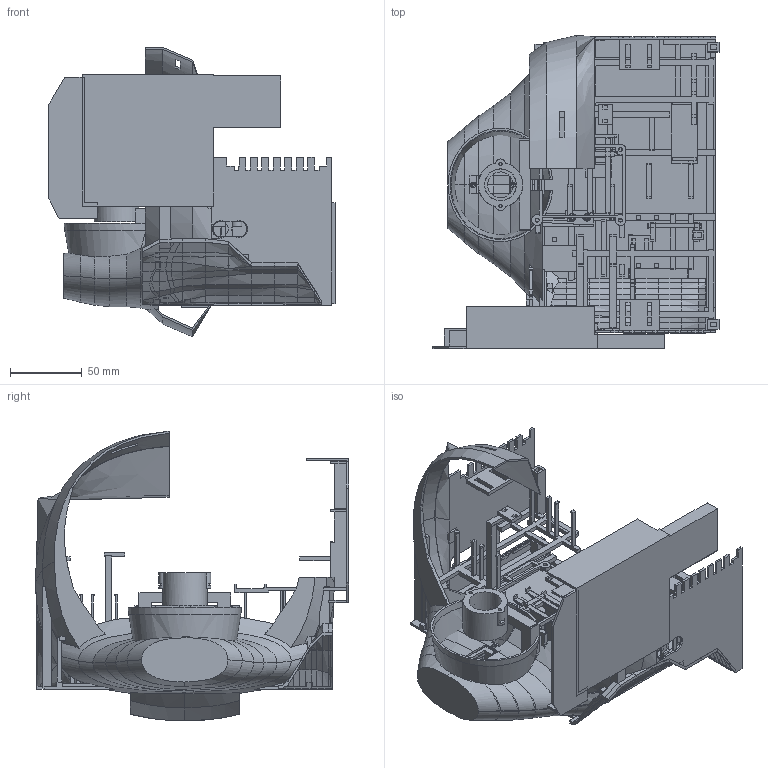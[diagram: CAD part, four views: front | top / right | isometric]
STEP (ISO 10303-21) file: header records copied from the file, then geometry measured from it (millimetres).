
FILE_DESCRIPTION(('Open CASCADE Model'),'2;1');
FILE_NAME('Open CASCADE Shape Model','2026-11-20T15:35:25',('Author'),( 'Open CASCADE'),'Open CASCADE STEP processor 8.0','Open CASCADE 8.0' ,'Unknown');
FILE_SCHEMA(('AUTOMOTIVE_DESIGN { 1 0 10303 214 1 1 1 1 }'));
Length unit declared in the file: millimetre
Products named in the file (3): Open CASCADE STEP translator 8.0 1; Open CASCADE STEP translator 8.0 1.1; Open CASCADE STEP translator 8.0 1.2
Assembly tree (2 placements, depth 2):
  Open CASCADE STEP translator 8.0 1
    Open CASCADE STEP translator 8.0 1.1
    Open CASCADE STEP translator 8.0 1.2
Bounding box: 199.1 x 218 x 201.64 mm (x, y, z)
Volume: 260285.1 mm3; surface area: 300137.4 mm2
Topology: 1 solids, 3 shells, 2747 faces, 7909 edges, 5139 vertices
Faces by surface type: plane 2275, bspline 372, cylinder 73, cone 23, sphere 4
Full cylindrical faces by diameter (mm): 1.8 x2, 2.2 x6, 2.3 x2, 2.76 x4, 2.8 x4, 3.72 x2, 22.12 x1, 22.2 x1, 31 x1
Entity records: 212380 total; most frequent: CARTESIAN_POINT 70971, DIRECTION 20290, ORIENTED_EDGE 15888, PCURVE 15818, DEFINITIONAL_REPRESENTATION 15818, LINE 14650, VECTOR 14650, B_SPLINE_CURVE_WITH_KNOTS 8459
